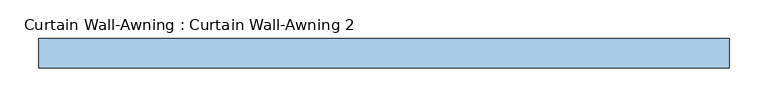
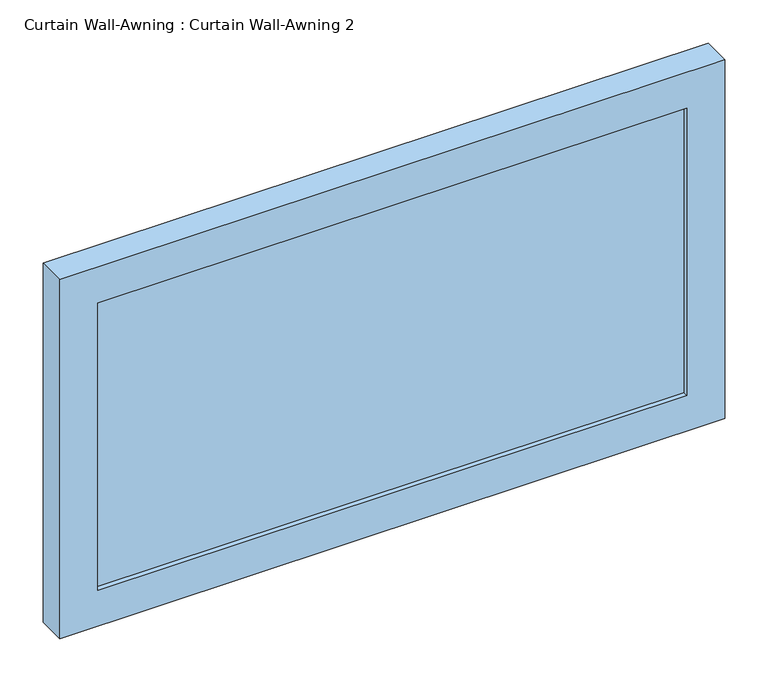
"""IFC4 building model written with IfcOpenShell, lengths in millimetres: window geometry, Curtain Wall-Awning : Curtain Wall-Awning 2."""

from ifc_helpers import new_model, si_unit, frame, origin, place, context, project, spatial, polyline, outline, extrude, source, transform, mapped, element, save


def curtain_wall_awning_curtain_wall_awning_2_0397bcab(model_context):
    return source(origin(), model_context, "Body", "SweptSolid", [
        extrude(outline(polyline([(393.7, 19.05), (393.7, 6.35), (-393.7, 6.35), (-393.7, 19.05), (393.7, 19.05)])), frame((0.0, 0.0, 50.8), z_axis=(0.0, 0.0, 1.0), x_axis=(1.0, 0.0, 0.0)), (0.0, 0.0, 1.0), 406.2774401),
        extrude(outline(polyline([(507.8774401, -444.5), (0.0, -444.5), (0.0, 444.5), (507.8774401, 444.5), (507.8774401, -444.5)]), holes=[polyline([(457.0774401, -393.7), (457.0774401, 393.7), (50.8, 393.7), (50.8, -393.7), (457.0774401, -393.7)])]), frame((0.0, 0.0, 0.0), z_axis=(0.0, 1.0, 0.0), x_axis=(0.0, 0.0, 1.0)), (0.0, 0.0, 1.0), 38.1),
    ])


if __name__ == "__main__":
    model = new_model("IFC4")
    model_context = context("Model", 3, world=origin())
    ifc_project = project(units=[si_unit("LENGTHUNIT", "METRE", prefix="MILLI")], contexts=[model_context])
    site = spatial("IfcSite", under=ifc_project)
    building = spatial("IfcBuilding", under=site)
    placement = place(None, origin())
    curtain_wall_awning_curtain_wall_awning_2_shape = curtain_wall_awning_curtain_wall_awning_2_0397bcab(model_context)
    element("IfcWindow", 1, ObjectType="Curtain Wall-Awning : Curtain Wall-Awning 2", at=placement, inside=building, context=model_context, shape_type="MappedRepresentation", body=[
        mapped(curtain_wall_awning_curtain_wall_awning_2_shape, transform((0.0, 0.0, 0.0), x_axis=(1.0, 0.0, 0.0), y_axis=(0.0, 1.0, 0.0), z_axis=(0.0, 0.0, 1.0))),
    ])
    save(model, "model.ifc")
